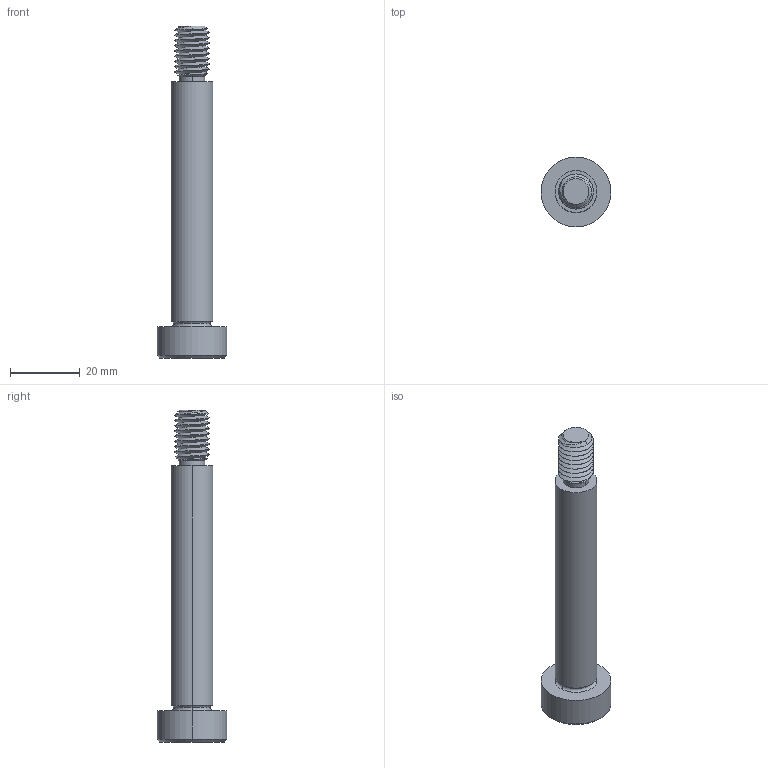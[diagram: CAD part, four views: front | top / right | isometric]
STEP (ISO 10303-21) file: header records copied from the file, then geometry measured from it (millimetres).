
FILE_DESCRIPTION (( 'STEP AP203' ), '1' );
FILE_NAME ('P0130.120-070-B2.step', '2021-11-09T22:09:52', ( '' ), ( '' ), 'SwSTEP 2.0', 'SolidWorks 2019', '' );
FILE_SCHEMA (( 'CONFIG_CONTROL_DESIGN' ));
Length unit declared in the file: millimetre
Products named in the file (1): P0130.120-070-B2
Bounding box: 20 x 20 x 95 mm (x, y, z)
Volume: 11405.4 mm3; surface area: 4759 mm2
Topology: 1 solids, 1 shells, 60 faces, 142 edges, 85 vertices
Faces by surface type: cylinder 23, plane 16, cone 15, torus 4, bspline 2
Entity records: 3534 total; most frequent: CARTESIAN_POINT 2187, ORIENTED_EDGE 280, DIRECTION 247, EDGE_CURVE 140, AXIS2_PLACEMENT_3D 99, VERTEX_POINT 85, EDGE_LOOP 63, ADVANCED_FACE 60
